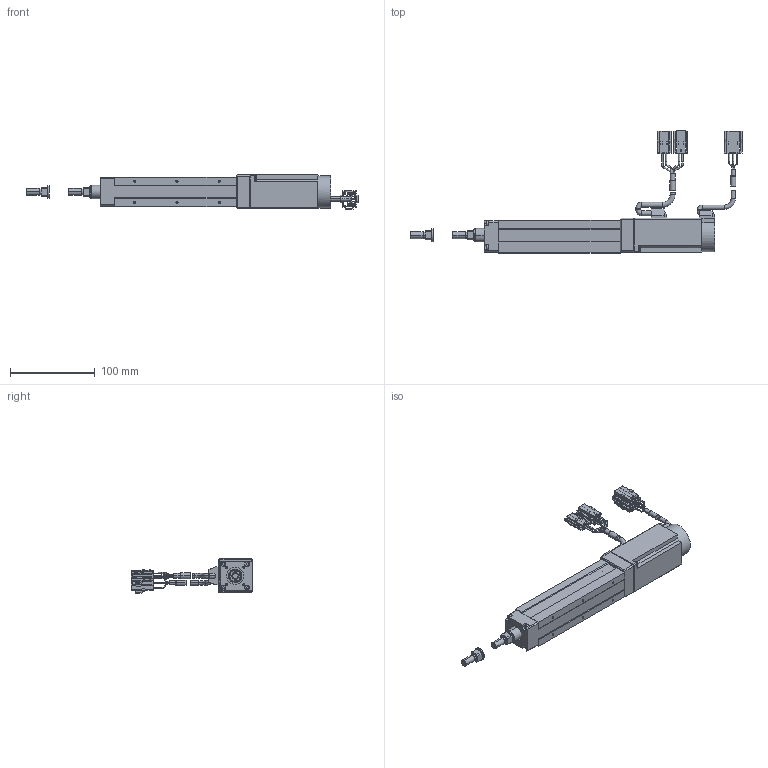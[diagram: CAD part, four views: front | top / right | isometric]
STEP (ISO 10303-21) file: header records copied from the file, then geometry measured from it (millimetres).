
FILE_DESCRIPTION((''),'2;1');
FILE_NAME('BET3D-ST-C_B-05_IGS_PRT','2017-06-18T',(' '),(''),'PRO/ENGINEER BY PARAMETRIC TECHNOLOGY CORPORATION, 2015030','PRO/ENGINEER BY PARAMETRIC TECHNOLOGY CORPORATION, 2015030','');
FILE_SCHEMA(('CONFIG_CONTROL_DESIGN'));
Length unit declared in the file: millimetre
Products named in the file (1): BET3D-ST-C_B-05_IGS_PRT
Bounding box: 392.5 x 144.2 x 40.28 mm (x, y, z)
Volume: 301418.6 mm3; surface area: 90768.1 mm2
Topology: 7 solids, 33 shells, 959 faces, 2467 edges, 1575 vertices
Faces by surface type: plane 583, cylinder 254, torus 68, cone 50, sphere 4
Entity records: 29064 total; most frequent: CARTESIAN_POINT 5257, DIRECTION 4983, ORIENTED_EDGE 4838, EDGE_CURVE 2435, VECTOR 1729, LINE 1729, AXIS2_PLACEMENT_3D 1627, VERTEX_POINT 1575
